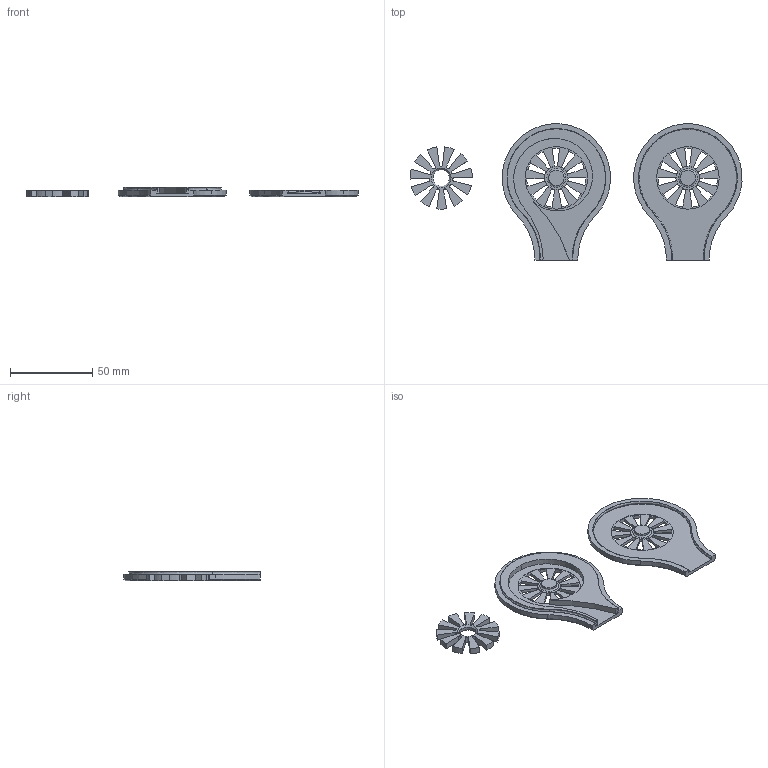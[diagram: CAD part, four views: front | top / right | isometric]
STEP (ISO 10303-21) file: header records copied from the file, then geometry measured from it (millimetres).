
FILE_DESCRIPTION(/* description */ (''),/* implementation_level */ '2;1');
FILE_NAME(/* name */ 'siren-screamer v4.step',/* time_stamp */ '2025-11-08T20:32:54+01:00',/* author */ (''),/* organization */ (''),/* preprocessor_version */ 'ST-DEVELOPER v20.1',/* originating_system */ 'Autodesk Translation Framework v14.17.0.0',/* authorisation */ '');
FILE_SCHEMA (('AUTOMOTIVE_DESIGN { 1 0 10303 214 3 1 1 }'));
Length unit declared in the file: millimetre
Products named in the file (1): siren-screamer
Bounding box: 201.91 x 82.88 x 5.8 mm (x, y, z)
Volume: 23700.1 mm3; surface area: 24009.6 mm2
Topology: 3 solids, 3 shells, 206 faces, 610 edges, 394 vertices
Faces by surface type: cylinder 94, plane 84, bspline 18, cone 8, torus 2
Full cylindrical faces by diameter (mm): 9.4 x2, 10 x1, 14 x2, 38 x2
Entity records: 7716 total; most frequent: CARTESIAN_POINT 1978, ORIENTED_EDGE 1220, DIRECTION 1215, EDGE_CURVE 610, AXIS2_PLACEMENT_3D 441, VERTEX_POINT 394, LINE 333, VECTOR 333
